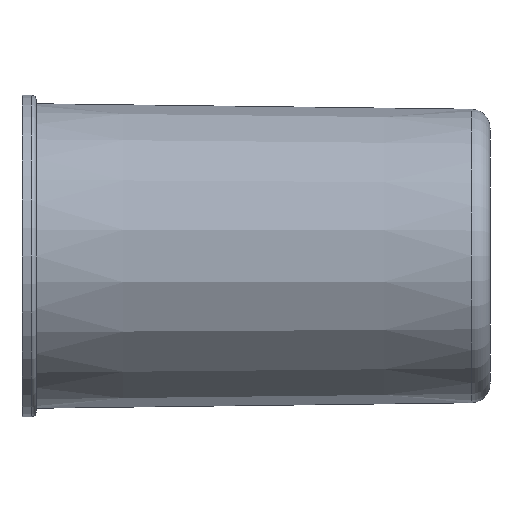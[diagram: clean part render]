
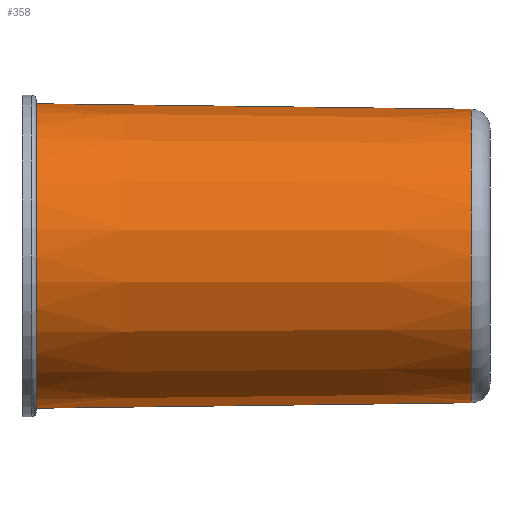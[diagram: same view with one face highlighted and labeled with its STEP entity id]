
A CAD part, left-side view. The second image highlights one B-rep face of the part: STEP entity #358.
In plain terms, the highlighted conical face has half-angle 0.716 degrees and reference radius 15.5 mm.
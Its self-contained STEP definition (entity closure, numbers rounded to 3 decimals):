
#48 = DIRECTION ( 'NONE',  ( 0., -1., 0. ) ) ;
#51 = EDGE_CURVE ( 'NONE', #360, #182, #338, .T. ) ;
#57 = CARTESIAN_POINT ( 'NONE',  ( 0., 0., 15.5 ) ) ;
#74 = ORIENTED_EDGE ( 'NONE', *, *, #540, .F. ) ;
#84 = CARTESIAN_POINT ( 'NONE',  ( 0., 0., -15.5 ) ) ;
#94 = DIRECTION ( 'NONE',  ( 0., 1., 0. ) ) ;
#129 = AXIS2_PLACEMENT_3D ( 'NONE', #210, #94, #514 ) ;
#136 = DIRECTION ( 'NONE',  ( 0., 0., 1. ) ) ;
#182 = VERTEX_POINT ( 'NONE', #465 ) ;
#188 = EDGE_CURVE ( 'NONE', #354, #341, #509, .T. ) ;
#205 = DIRECTION ( 'NONE',  ( 0., 1., -0.012 ) ) ;
#206 = CARTESIAN_POINT ( 'NONE',  ( 0., 48., 0. ) ) ;
#210 = CARTESIAN_POINT ( 'NONE',  ( 0., 1.975, 0. ) ) ;
#219 = VECTOR ( 'NONE', #392, 1000. ) ;
#271 = ORIENTED_EDGE ( 'NONE', *, *, #188, .T. ) ;
#279 = EDGE_CURVE ( 'NONE', #341, #360, #361, .T. ) ;
#322 = AXIS2_PLACEMENT_3D ( 'NONE', #344, #350, #136 ) ;
#329 = LINE ( 'NONE', #84, #508 ) ;
#338 = CIRCLE ( 'NONE', #343, 16.1 ) ;
#341 = VERTEX_POINT ( 'NONE', #388 ) ;
#343 = AXIS2_PLACEMENT_3D ( 'NONE', #206, #48, #372 ) ;
#344 = CARTESIAN_POINT ( 'NONE',  ( 0., 0., 0. ) ) ;
#350 = DIRECTION ( 'NONE',  ( 0., 1., 0. ) ) ;
#354 = VERTEX_POINT ( 'NONE', #394 ) ;
#358 = ADVANCED_FACE ( 'NONE', ( #502 ), #460, .T. ) ;
#360 = VERTEX_POINT ( 'NONE', #428 ) ;
#361 = LINE ( 'NONE', #57, #219 ) ;
#372 = DIRECTION ( 'NONE',  ( 0., 0., -1. ) ) ;
#388 = CARTESIAN_POINT ( 'NONE',  ( 0., 1.975, 15.525 ) ) ;
#392 = DIRECTION ( 'NONE',  ( 0., 1., 0.012 ) ) ;
#394 = CARTESIAN_POINT ( 'NONE',  ( 0., 1.975, -15.525 ) ) ;
#415 = ORIENTED_EDGE ( 'NONE', *, *, #51, .T. ) ;
#428 = CARTESIAN_POINT ( 'NONE',  ( 0., 48., 16.1 ) ) ;
#459 = EDGE_LOOP ( 'NONE', ( #74, #271, #518, #415 ) ) ;
#460 = CONICAL_SURFACE ( 'NONE', #322, 15.5, 0.012 ) ;
#465 = CARTESIAN_POINT ( 'NONE',  ( 0., 48., -16.1 ) ) ;
#502 = FACE_OUTER_BOUND ( 'NONE', #459, .T. ) ;
#508 = VECTOR ( 'NONE', #205, 1000. ) ;
#509 = CIRCLE ( 'NONE', #129, 15.525 ) ;
#514 = DIRECTION ( 'NONE',  ( 0., 0., -1. ) ) ;
#518 = ORIENTED_EDGE ( 'NONE', *, *, #279, .T. ) ;
#540 = EDGE_CURVE ( 'NONE', #354, #182, #329, .T. ) ;
